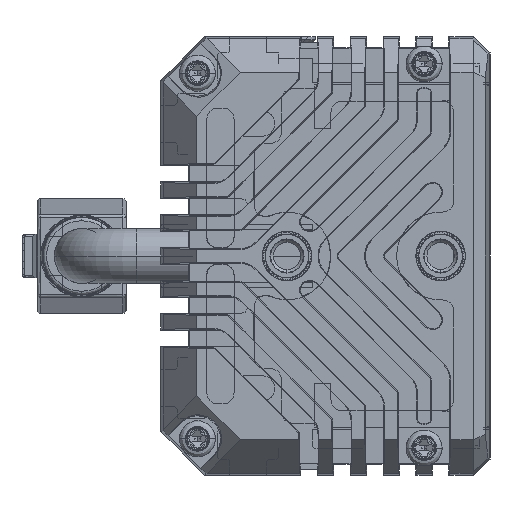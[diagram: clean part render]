
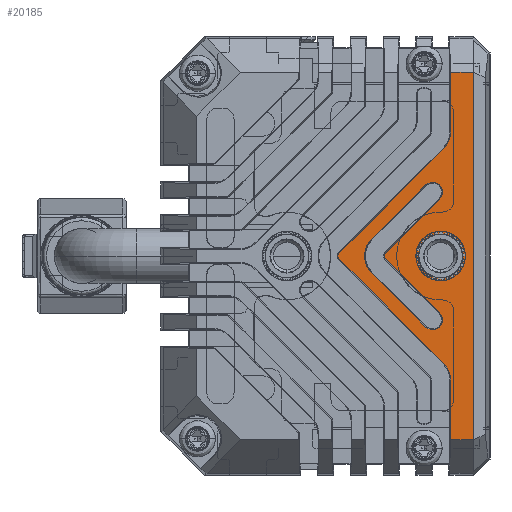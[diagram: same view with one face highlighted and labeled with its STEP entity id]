
A CAD part, left-side view. The second image highlights one B-rep face of the part: STEP entity #20185.
In plain terms, the highlighted planar face has unit normal (-1, 0, 0) as drawn and (0, 0, 1) by its records, which use the part's own axes.
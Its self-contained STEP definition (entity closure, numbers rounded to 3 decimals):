
#13083=CARTESIAN_POINT('',(0.,-1.473,0.));
#13084=DIRECTION('',(0.,0.,1.));
#13085=DIRECTION('',(0.707,0.707,0.));
#13086=AXIS2_PLACEMENT_3D('',#13083,#13084,#13085);
#13092=DIRECTION('',(0.707,-0.707,0.));
#13093=VECTOR('',#13092,13.498);
#13094=CARTESIAN_POINT('',(0.242,-1.231,0.));
#13095=LINE('',#13094,#13093);
#13099=DIRECTION('',(-1.,0.,0.));
#13100=VECTOR('',#13099,5.438);
#13101=CARTESIAN_POINT('',(16.75,-11.407,0.));
#13102=LINE('',#13101,#13100);
#13106=DIRECTION('',(0.,1.,0.));
#13107=VECTOR('',#13106,2.093);
#13108=CARTESIAN_POINT('',(16.75,-13.5,0.));
#13109=LINE('',#13108,#13107);
#13113=DIRECTION('',(1.,0.,0.));
#13114=VECTOR('',#13113,33.5);
#13115=CARTESIAN_POINT('',(-16.75,-13.5,0.));
#13116=LINE('',#13115,#13114);
#13120=DIRECTION('',(0.,1.,0.));
#13121=VECTOR('',#13120,2.093);
#13122=CARTESIAN_POINT('',(-16.75,-13.5,0.));
#13123=LINE('',#13122,#13121);
#13127=DIRECTION('',(1.,0.,0.));
#13128=VECTOR('',#13127,5.438);
#13129=CARTESIAN_POINT('',(-16.75,-11.407,0.));
#13130=LINE('',#13129,#13128);
#13134=DIRECTION('',(0.707,0.707,0.));
#13135=VECTOR('',#13134,13.498);
#13136=CARTESIAN_POINT('',(-9.787,-10.775,0.));
#13137=LINE('',#13136,#13135);
#13141=CARTESIAN_POINT('',(0.,-5.716,0.));
#13142=DIRECTION('',(0.,0.,1.));
#13143=DIRECTION('',(0.707,0.707,0.));
#13144=AXIS2_PLACEMENT_3D('',#13141,#13142,#13143);
#13149=DIRECTION('',(0.707,-0.707,0.));
#13150=VECTOR('',#13149,6.997);
#13151=CARTESIAN_POINT('',(0.242,-5.473,0.));
#13152=LINE('',#13151,#13150);
#13156=CARTESIAN_POINT('',(5.831,-9.78,0.));
#13157=DIRECTION('',(0.,0.,1.));
#13158=DIRECTION('',(-0.707,-0.707,0.));
#13159=AXIS2_PLACEMENT_3D('',#13156,#13157,#13158);
#13164=DIRECTION('',(-0.707,0.707,0.));
#13165=VECTOR('',#13164,6.997);
#13166=CARTESIAN_POINT('',(6.473,-9.138,0.));
#13167=LINE('',#13166,#13165);
#13171=DIRECTION('',(-0.707,-0.707,0.));
#13172=VECTOR('',#13171,6.997);
#13173=CARTESIAN_POINT('',(-1.525,-4.191,0.));
#13174=LINE('',#13173,#13172);
#13178=CARTESIAN_POINT('',(-5.831,-9.78,0.));
#13179=DIRECTION('',(0.,0.,1.));
#13180=DIRECTION('',(-0.707,0.707,0.));
#13181=AXIS2_PLACEMENT_3D('',#13178,#13179,#13180);
#13186=DIRECTION('',(0.707,0.707,0.));
#13187=VECTOR('',#13186,6.997);
#13188=CARTESIAN_POINT('',(-5.19,-10.421,0.));
#13189=LINE('',#13188,#13187);
#13856=CARTESIAN_POINT('',(0.,-10.5,0.));
#13857=DIRECTION('',(0.,0.,1.));
#13858=DIRECTION('',(1.,0.,0.));
#13859=AXIS2_PLACEMENT_3D('',#13856,#13857,#13858);
#13864=CARTESIAN_POINT('',(0.,-10.5,0.));
#13865=DIRECTION('',(0.,0.,1.));
#13866=DIRECTION('',(-1.,0.,0.));
#13867=AXIS2_PLACEMENT_3D('',#13864,#13865,#13866);
#13894=CARTESIAN_POINT('',(-11.312,-9.25,0.));
#13895=DIRECTION('',(0.,0.,-1.));
#13896=DIRECTION('',(0.707,-0.707,0.));
#13897=AXIS2_PLACEMENT_3D('',#13894,#13895,#13896);
#17225=CARTESIAN_POINT('',(11.312,-9.25,0.));
#17226=DIRECTION('',(0.,0.,-1.));
#17227=DIRECTION('',(0.,-1.,0.));
#17228=AXIS2_PLACEMENT_3D('',#17225,#17226,#17227);
#18894=CARTESIAN_POINT('',(0.,-5.716,0.));
#18895=DIRECTION('',(0.,0.,-1.));
#18896=DIRECTION('',(-0.707,0.707,0.));
#18897=AXIS2_PLACEMENT_3D('',#18894,#18895,#18896);
#19050=CARTESIAN_POINT('',(-16.75,-13.5,0.));
#19051=CARTESIAN_POINT('',(16.75,-13.5,0.));
#19052=VERTEX_POINT('',#19050);
#19053=VERTEX_POINT('',#19051);
#19066=CARTESIAN_POINT('',(2.,-10.5,0.));
#19067=CARTESIAN_POINT('',(-2.,-10.5,0.));
#19068=VERTEX_POINT('',#19066);
#19069=VERTEX_POINT('',#19067);
#19150=CARTESIAN_POINT('',(16.75,-11.407,0.));
#19151=VERTEX_POINT('',#19150);
#19160=CARTESIAN_POINT('',(-6.473,-9.138,0.));
#19162=VERTEX_POINT('',#19160);
#19166=CARTESIAN_POINT('',(-5.19,-10.421,0.));
#19167=VERTEX_POINT('',#19166);
#19172=CARTESIAN_POINT('',(6.473,-9.138,0.));
#19173=VERTEX_POINT('',#19172);
#19174=CARTESIAN_POINT('',(5.19,-10.421,0.));
#19175=VERTEX_POINT('',#19174);
#19180=CARTESIAN_POINT('',(11.312,-11.407,0.));
#19181=VERTEX_POINT('',#19180);
#19182=CARTESIAN_POINT('',(9.787,-10.775,0.));
#19183=VERTEX_POINT('',#19182);
#19244=CARTESIAN_POINT('',(-9.787,-10.775,0.));
#19245=VERTEX_POINT('',#19244);
#19246=CARTESIAN_POINT('',(-11.312,-11.407,0.));
#19247=VERTEX_POINT('',#19246);
#19252=CARTESIAN_POINT('',(-1.525,-4.191,0.));
#19253=VERTEX_POINT('',#19252);
#19254=CARTESIAN_POINT('',(1.525,-4.191,0.));
#19255=VERTEX_POINT('',#19254);
#19270=CARTESIAN_POINT('',(-16.75,-11.407,0.));
#19271=VERTEX_POINT('',#19270);
#19272=CARTESIAN_POINT('',(0.242,-5.473,0.));
#19273=CARTESIAN_POINT('',(-0.242,-5.473,0.));
#19274=VERTEX_POINT('',#19272);
#19275=VERTEX_POINT('',#19273);
#19280=CARTESIAN_POINT('',(0.242,-1.231,0.));
#19281=CARTESIAN_POINT('',(-0.242,-1.231,0.));
#19282=VERTEX_POINT('',#19280);
#19283=VERTEX_POINT('',#19281);
#20134=CARTESIAN_POINT('',(0.,0.,0.));
#20135=DIRECTION('',(0.,0.,1.));
#20136=DIRECTION('',(1.,0.,0.));
#20137=AXIS2_PLACEMENT_3D('',#20134,#20135,#20136);
#20138=PLANE('',#20137);
#20140=ORIENTED_EDGE('',*,*,#20139,.F.);
#20142=ORIENTED_EDGE('',*,*,#20141,.T.);
#20144=ORIENTED_EDGE('',*,*,#20143,.F.);
#20146=ORIENTED_EDGE('',*,*,#20145,.F.);
#20148=ORIENTED_EDGE('',*,*,#20147,.F.);
#20150=ORIENTED_EDGE('',*,*,#20149,.F.);
#20152=ORIENTED_EDGE('',*,*,#20151,.T.);
#20154=ORIENTED_EDGE('',*,*,#20153,.T.);
#20156=ORIENTED_EDGE('',*,*,#20155,.F.);
#20158=ORIENTED_EDGE('',*,*,#20157,.T.);
#20159=EDGE_LOOP('',(#20140,#20142,#20144,#20146,#20148,#20150,#20152,#20154,
#20156,#20158));
#20160=FACE_OUTER_BOUND('',#20159,.F.);
#20162=ORIENTED_EDGE('',*,*,#20161,.F.);
#20164=ORIENTED_EDGE('',*,*,#20163,.T.);
#20166=ORIENTED_EDGE('',*,*,#20165,.T.);
#20168=ORIENTED_EDGE('',*,*,#20167,.T.);
#20170=ORIENTED_EDGE('',*,*,#20169,.F.);
#20172=ORIENTED_EDGE('',*,*,#20171,.T.);
#20174=ORIENTED_EDGE('',*,*,#20173,.T.);
#20176=ORIENTED_EDGE('',*,*,#20175,.T.);
#20177=EDGE_LOOP('',(#20162,#20164,#20166,#20168,#20170,#20172,#20174,#20176));
#20178=FACE_BOUND('',#20177,.F.);
#20180=ORIENTED_EDGE('',*,*,#20179,.T.);
#20182=ORIENTED_EDGE('',*,*,#20181,.T.);
#20183=EDGE_LOOP('',(#20180,#20182));
#20184=FACE_BOUND('',#20183,.F.);
#13087=CIRCLE('',#13086,0.343);
#13145=CIRCLE('',#13144,0.343);
#13160=CIRCLE('',#13159,0.907);
#13182=CIRCLE('',#13181,0.907);
#13860=CIRCLE('',#13859,2.);
#13868=CIRCLE('',#13867,2.);
#13898=CIRCLE('',#13897,2.157);
#17229=CIRCLE('',#17228,2.157);
#18898=CIRCLE('',#18897,2.157);
#20139=EDGE_CURVE('',#19282,#19283,#13087,.T.);
#20141=EDGE_CURVE('',#19282,#19183,#13095,.T.);
#20143=EDGE_CURVE('',#19181,#19183,#17229,.T.);
#20145=EDGE_CURVE('',#19151,#19181,#13102,.T.);
#20147=EDGE_CURVE('',#19053,#19151,#13109,.T.);
#20149=EDGE_CURVE('',#19052,#19053,#13116,.T.);
#20151=EDGE_CURVE('',#19052,#19271,#13123,.T.);
#20153=EDGE_CURVE('',#19271,#19247,#13130,.T.);
#20155=EDGE_CURVE('',#19245,#19247,#13898,.T.);
#20157=EDGE_CURVE('',#19245,#19283,#13137,.T.);
#20161=EDGE_CURVE('',#19274,#19275,#13145,.T.);
#20163=EDGE_CURVE('',#19274,#19175,#13152,.T.);
#20165=EDGE_CURVE('',#19175,#19173,#13160,.T.);
#20167=EDGE_CURVE('',#19173,#19255,#13167,.T.);
#20169=EDGE_CURVE('',#19253,#19255,#18898,.T.);
#20171=EDGE_CURVE('',#19253,#19162,#13174,.T.);
#20173=EDGE_CURVE('',#19162,#19167,#13182,.T.);
#20175=EDGE_CURVE('',#19167,#19275,#13189,.T.);
#20179=EDGE_CURVE('',#19068,#19069,#13860,.T.);
#20181=EDGE_CURVE('',#19069,#19068,#13868,.T.);
#20185=ADVANCED_FACE('',(#20160,#20178,#20184),#20138,.T.);
